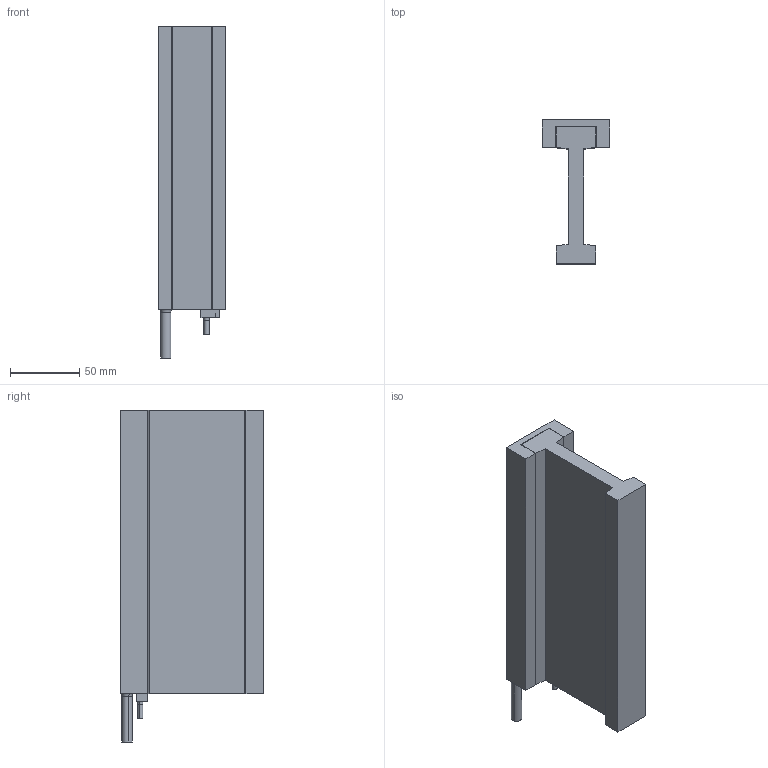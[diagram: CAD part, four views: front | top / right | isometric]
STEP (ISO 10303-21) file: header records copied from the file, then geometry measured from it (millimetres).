
FILE_DESCRIPTION (( 'STEP AP214' ), '1' );
FILE_NAME ('DX65F-C3.step', '2022-09-22T03:37:30', ( '' ), ( '' ), 'SwSTEP 2.0', 'SolidWorks 2020', '' );
FILE_SCHEMA (( 'AUTOMOTIVE_DESIGN' ));
Length unit declared in the file: millimetre
Products named in the file (1): DX65F-C3
Bounding box: 49 x 104 x 240 mm (x, y, z)
Volume: 440875.1 mm3; surface area: 102096.9 mm2
Topology: 7 solids, 7 shells, 166 faces, 380 edges, 225 vertices
Faces by surface type: plane 80, cylinder 48, cone 30, torus 8
Entity records: 6462 total; most frequent: CARTESIAN_POINT 818, DIRECTION 814, ORIENTED_EDGE 716, EDGE_CURVE 358, AXIS2_PLACEMENT_3D 293, VECTOR 228, LINE 228, VERTEX_POINT 225
